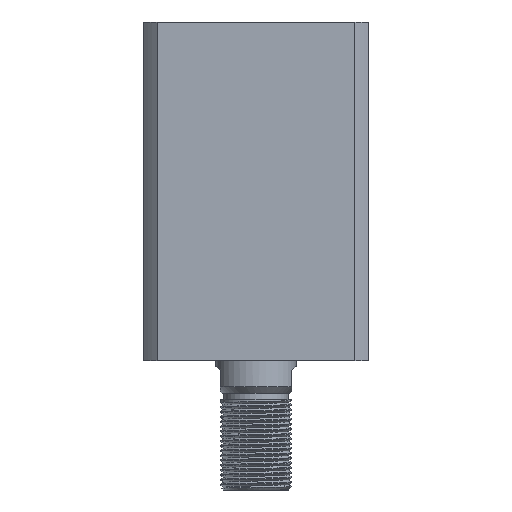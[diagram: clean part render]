
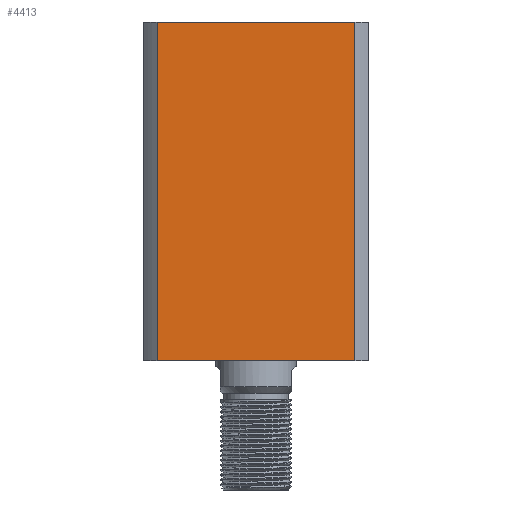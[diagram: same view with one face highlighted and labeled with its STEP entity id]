
A CAD part, left-side view. The second image highlights one B-rep face of the part: STEP entity #4413.
In plain terms, the highlighted planar face has unit normal (-1, 0, 0) as drawn and (0, 1, 0) by its records, which use the part's own axes.
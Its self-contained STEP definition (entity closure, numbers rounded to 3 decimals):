
#645 = AXIS2_PLACEMENT_3D ( 'NONE', #12760, #3435, #10738 ) ;
#1250 = CARTESIAN_POINT ( 'NONE',  ( 30.615, 35., 0. ) ) ;
#1847 = VECTOR ( 'NONE', #5215, 1000. ) ;
#2298 = LINE ( 'NONE', #6769, #13083 ) ;
#2502 = CARTESIAN_POINT ( 'NONE',  ( 30.615, 35., 105. ) ) ;
#2591 = DIRECTION ( 'NONE',  ( 0., 0., -1. ) ) ;
#3435 = DIRECTION ( 'NONE',  ( 0., -1., 0. ) ) ;
#3596 = ORIENTED_EDGE ( 'NONE', *, *, #9615, .F. ) ;
#3615 = EDGE_CURVE ( 'NONE', #6989, #10131, #10385, .T. ) ;
#4164 = CARTESIAN_POINT ( 'NONE',  ( 30.615, 35., 300. ) ) ;
#4365 = VERTEX_POINT ( 'NONE', #1250 ) ;
#4413 = ADVANCED_FACE ( 'NONE', ( #4824 ), #8624, .F. ) ;
#4824 = FACE_OUTER_BOUND ( 'NONE', #7273, .T. ) ;
#5215 = DIRECTION ( 'NONE',  ( 0., 0., 1. ) ) ;
#5434 = CARTESIAN_POINT ( 'NONE',  ( -30.615, 35., 0. ) ) ;
#5564 = LINE ( 'NONE', #13095, #10792 ) ;
#5874 = VERTEX_POINT ( 'NONE', #5434 ) ;
#6625 = DIRECTION ( 'NONE',  ( -1., 0., 0. ) ) ;
#6688 = CARTESIAN_POINT ( 'NONE',  ( -30.615, 35., 105. ) ) ;
#6769 = CARTESIAN_POINT ( 'NONE',  ( -35., 35., 0. ) ) ;
#6989 = VERTEX_POINT ( 'NONE', #2502 ) ;
#7273 = EDGE_LOOP ( 'NONE', ( #3596, #12171, #7631, #11845 ) ) ;
#7373 = LINE ( 'NONE', #4164, #1847 ) ;
#7589 = VECTOR ( 'NONE', #6625, 1000. ) ;
#7631 = ORIENTED_EDGE ( 'NONE', *, *, #8034, .F. ) ;
#8034 = EDGE_CURVE ( 'NONE', #4365, #6989, #7373, .T. ) ;
#8624 = PLANE ( 'NONE',  #645 ) ;
#9615 = EDGE_CURVE ( 'NONE', #10131, #5874, #5564, .T. ) ;
#10131 = VERTEX_POINT ( 'NONE', #6688 ) ;
#10325 = EDGE_CURVE ( 'NONE', #4365, #5874, #2298, .T. ) ;
#10385 = LINE ( 'NONE', #10795, #7589 ) ;
#10738 = DIRECTION ( 'NONE',  ( 0., 0., -1. ) ) ;
#10792 = VECTOR ( 'NONE', #2591, 1000. ) ;
#10795 = CARTESIAN_POINT ( 'NONE',  ( -35., 35., 105. ) ) ;
#11845 = ORIENTED_EDGE ( 'NONE', *, *, #10325, .T. ) ;
#11986 = DIRECTION ( 'NONE',  ( -1., 0., 0. ) ) ;
#12171 = ORIENTED_EDGE ( 'NONE', *, *, #3615, .F. ) ;
#12760 = CARTESIAN_POINT ( 'NONE',  ( -35., 35., 105. ) ) ;
#13083 = VECTOR ( 'NONE', #11986, 1000. ) ;
#13095 = CARTESIAN_POINT ( 'NONE',  ( -30.615, 35., 300. ) ) ;
